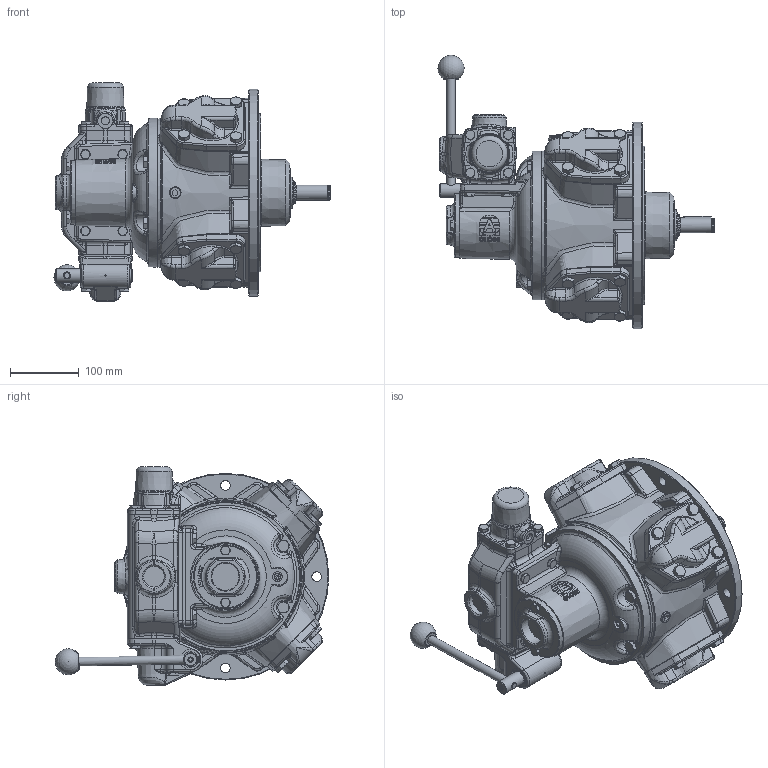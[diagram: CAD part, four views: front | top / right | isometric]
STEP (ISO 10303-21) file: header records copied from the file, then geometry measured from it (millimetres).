
FILE_DESCRIPTION (( 'STEP AP214' ), '1' );
FILE_NAME ('RM310+HCV310 Defeature + Logo.STEP', '2023-05-17T13:26:04', ( '' ), ( '' ), 'SwSTEP 2.0', 'SolidWorks 2022', '' );
FILE_SCHEMA (( 'AUTOMOTIVE_DESIGN' ));
Length unit declared in the file: millimetre
Products named in the file (1): RM310+HCV310 Defeature + Logo
Bounding box: 400.9 x 397.09 x 316.59 mm (x, y, z)
Volume: 12588282.2 mm3; surface area: 509526.1 mm2
Topology: 1 solids, 1 shells, 2970 faces, 7374 edges, 4460 vertices
Faces by surface type: plane 1235, bspline 668, cylinder 485, cone 421, torus 149, sphere 12
Full cylindrical faces by diameter (mm): 1.9 x2, 2 x5, 6.8 x2, 9 x1, 9.728 x2, 10 x1, 10.5 x1, 11.445 x3, 11.75 x1, 12.7 x1, 13 x16, 14 x6, 16 x20, 19 x2, 19.5 x9, 20 x3, 21 x8, 21.5 x1, 22 x1, 30 x2, 30.291 x2, 32.05 x1, 39.5 x1, 45 x1, 46.94 x1, 47.04 x1, 62.69 x1, 215.9 x1, 229.965 x1, 300 x1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
Entity records: 175016 total; most frequent: CARTESIAN_POINT 79821, ORIENTED_EDGE 14048, DIRECTION 11204, EDGE_CURVE 7024, VERTEX_POINT 4358, AXIS2_PLACEMENT_3D 4260, EDGE_LOOP 3290, FACE_OUTER_BOUND 3080
